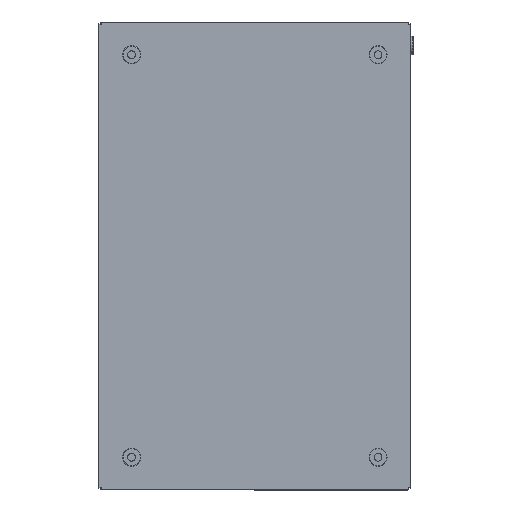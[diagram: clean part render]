
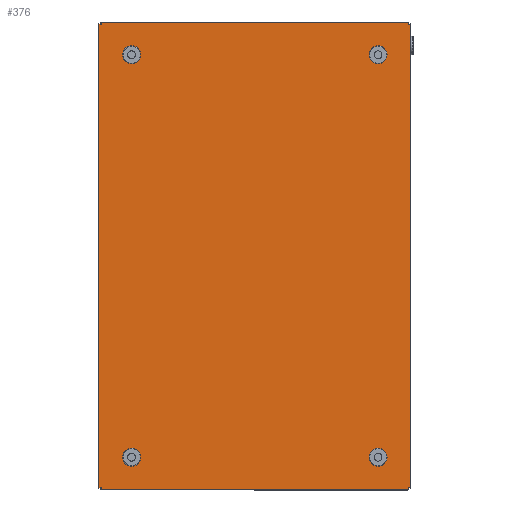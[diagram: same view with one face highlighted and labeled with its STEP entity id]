
A CAD part, front view. The second image highlights one B-rep face of the part: STEP entity #376.
In plain terms, the highlighted planar face has unit normal (0, -1, 0).
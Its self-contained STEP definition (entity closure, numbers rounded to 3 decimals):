
#376 = ADVANCED_FACE('',(#377,#397,#408,#428,#439),#561,.T.);
#377 = FACE_BOUND('',#378,.T.);
#378 = EDGE_LOOP('',(#379,#390));
#379 = ORIENTED_EDGE('',*,*,#380,.F.);
#380 = EDGE_CURVE('',#381,#383,#385,.T.);
#381 = VERTEX_POINT('',#382);
#382 = CARTESIAN_POINT('',(-79.,-1.2,-125.1));
#383 = VERTEX_POINT('',#384);
#384 = CARTESIAN_POINT('',(-79.,-1.2,-132.9));
#385 = CIRCLE('',#386,3.9);
#386 = AXIS2_PLACEMENT_3D('',#387,#388,#389);
#387 = CARTESIAN_POINT('',(-79.,-1.2,-129.));
#388 = DIRECTION('',(0.,-1.,0.));
#389 = DIRECTION('',(0.,0.,1.));
#390 = ORIENTED_EDGE('',*,*,#391,.F.);
#391 = EDGE_CURVE('',#383,#381,#392,.T.);
#392 = CIRCLE('',#393,3.9);
#393 = AXIS2_PLACEMENT_3D('',#394,#395,#396);
#394 = CARTESIAN_POINT('',(-79.,-1.2,-129.));
#395 = DIRECTION('',(0.,-1.,0.));
#396 = DIRECTION('',(0.,0.,1.));
#397 = FACE_BOUND('',#398,.T.);
#398 = EDGE_LOOP('',(#399));
#399 = ORIENTED_EDGE('',*,*,#400,.F.);
#400 = EDGE_CURVE('',#401,#401,#403,.T.);
#401 = VERTEX_POINT('',#402);
#402 = CARTESIAN_POINT('',(79.,-1.2,-132.9));
#403 = CIRCLE('',#404,3.9);
#404 = AXIS2_PLACEMENT_3D('',#405,#406,#407);
#405 = CARTESIAN_POINT('',(79.,-1.2,-129.));
#406 = DIRECTION('',(0.,-1.,0.));
#407 = DIRECTION('',(0.,0.,-1.));
#408 = FACE_BOUND('',#409,.T.);
#409 = EDGE_LOOP('',(#410,#421));
#410 = ORIENTED_EDGE('',*,*,#411,.F.);
#411 = EDGE_CURVE('',#412,#414,#416,.T.);
#412 = VERTEX_POINT('',#413);
#413 = CARTESIAN_POINT('',(79.,-1.2,132.9));
#414 = VERTEX_POINT('',#415);
#415 = CARTESIAN_POINT('',(79.,-1.2,125.1));
#416 = CIRCLE('',#417,3.9);
#417 = AXIS2_PLACEMENT_3D('',#418,#419,#420);
#418 = CARTESIAN_POINT('',(79.,-1.2,129.));
#419 = DIRECTION('',(0.,-1.,0.));
#420 = DIRECTION('',(0.,0.,1.));
#421 = ORIENTED_EDGE('',*,*,#422,.F.);
#422 = EDGE_CURVE('',#414,#412,#423,.T.);
#423 = CIRCLE('',#424,3.9);
#424 = AXIS2_PLACEMENT_3D('',#425,#426,#427);
#425 = CARTESIAN_POINT('',(79.,-1.2,129.));
#426 = DIRECTION('',(0.,-1.,0.));
#427 = DIRECTION('',(0.,0.,1.));
#428 = FACE_BOUND('',#429,.T.);
#429 = EDGE_LOOP('',(#430));
#430 = ORIENTED_EDGE('',*,*,#431,.F.);
#431 = EDGE_CURVE('',#432,#432,#434,.T.);
#432 = VERTEX_POINT('',#433);
#433 = CARTESIAN_POINT('',(-79.,-1.2,125.1));
#434 = CIRCLE('',#435,3.9);
#435 = AXIS2_PLACEMENT_3D('',#436,#437,#438);
#436 = CARTESIAN_POINT('',(-79.,-1.2,129.));
#437 = DIRECTION('',(0.,-1.,0.));
#438 = DIRECTION('',(0.,0.,-1.));
#439 = FACE_BOUND('',#440,.T.);
#440 = EDGE_LOOP('',(#441,#454,#465,#473,#484,#495,#503,#514,#525,#533,
    #544,#555));
#441 = ORIENTED_EDGE('',*,*,#442,.F.);
#442 = EDGE_CURVE('',#443,#445,#447,.T.);
#443 = VERTEX_POINT('',#444);
#444 = CARTESIAN_POINT('',(98.2,-1.2,148.2));
#445 = VERTEX_POINT('',#446);
#446 = CARTESIAN_POINT('',(100.,-1.2,148.574));
#447 = B_SPLINE_CURVE_WITH_KNOTS('',3,(#448,#449,#450,#451,#452,#453),
  .UNSPECIFIED.,.F.,.F.,(4,2,4),(0.004,0.005,
    0.006),.UNSPECIFIED.);
#448 = CARTESIAN_POINT('',(98.2,-1.2,148.2));
#449 = CARTESIAN_POINT('',(98.495,-1.2,148.287));
#450 = CARTESIAN_POINT('',(98.79,-1.2,148.371));
#451 = CARTESIAN_POINT('',(99.39,-1.2,148.498));
#452 = CARTESIAN_POINT('',(99.695,-1.2,148.543));
#453 = CARTESIAN_POINT('',(100.,-1.2,148.574));
#454 = ORIENTED_EDGE('',*,*,#455,.T.);
#455 = EDGE_CURVE('',#443,#456,#458,.T.);
#456 = VERTEX_POINT('',#457);
#457 = CARTESIAN_POINT('',(98.574,-1.2,150.));
#458 = B_SPLINE_CURVE_WITH_KNOTS('',3,(#459,#460,#461,#462,#463,#464),
  .UNSPECIFIED.,.F.,.F.,(4,2,4),(0.004,0.005,
    0.006),.UNSPECIFIED.);
#459 = CARTESIAN_POINT('',(98.2,-1.2,148.2));
#460 = CARTESIAN_POINT('',(98.287,-1.2,148.495));
#461 = CARTESIAN_POINT('',(98.371,-1.2,148.79));
#462 = CARTESIAN_POINT('',(98.498,-1.2,149.39));
#463 = CARTESIAN_POINT('',(98.543,-1.2,149.695));
#464 = CARTESIAN_POINT('',(98.574,-1.2,150.));
#465 = ORIENTED_EDGE('',*,*,#466,.T.);
#466 = EDGE_CURVE('',#456,#467,#469,.T.);
#467 = VERTEX_POINT('',#468);
#468 = CARTESIAN_POINT('',(-98.574,-1.2,150.));
#469 = LINE('',#470,#471);
#470 = CARTESIAN_POINT('',(1600.,-1.2,150.));
#471 = VECTOR('',#472,1.);
#472 = DIRECTION('',(-1.,0.,0.));
#473 = ORIENTED_EDGE('',*,*,#474,.F.);
#474 = EDGE_CURVE('',#475,#467,#477,.T.);
#475 = VERTEX_POINT('',#476);
#476 = CARTESIAN_POINT('',(-98.2,-1.2,148.2));
#477 = B_SPLINE_CURVE_WITH_KNOTS('',3,(#478,#479,#480,#481,#482,#483),
  .UNSPECIFIED.,.F.,.F.,(4,2,4),(0.004,0.005,
    0.006),.UNSPECIFIED.);
#478 = CARTESIAN_POINT('',(-98.2,-1.2,148.2));
#479 = CARTESIAN_POINT('',(-98.287,-1.2,148.495));
#480 = CARTESIAN_POINT('',(-98.371,-1.2,148.79));
#481 = CARTESIAN_POINT('',(-98.498,-1.2,149.39));
#482 = CARTESIAN_POINT('',(-98.543,-1.2,149.695));
#483 = CARTESIAN_POINT('',(-98.574,-1.2,150.));
#484 = ORIENTED_EDGE('',*,*,#485,.T.);
#485 = EDGE_CURVE('',#475,#486,#488,.T.);
#486 = VERTEX_POINT('',#487);
#487 = CARTESIAN_POINT('',(-100.,-1.2,148.574));
#488 = B_SPLINE_CURVE_WITH_KNOTS('',3,(#489,#490,#491,#492,#493,#494),
  .UNSPECIFIED.,.F.,.F.,(4,2,4),(0.004,0.005,
    0.006),.UNSPECIFIED.);
#489 = CARTESIAN_POINT('',(-98.2,-1.2,148.2));
#490 = CARTESIAN_POINT('',(-98.495,-1.2,148.287));
#491 = CARTESIAN_POINT('',(-98.79,-1.2,148.371));
#492 = CARTESIAN_POINT('',(-99.39,-1.2,148.498));
#493 = CARTESIAN_POINT('',(-99.695,-1.2,148.543));
#494 = CARTESIAN_POINT('',(-100.,-1.2,148.574));
#495 = ORIENTED_EDGE('',*,*,#496,.T.);
#496 = EDGE_CURVE('',#486,#497,#499,.T.);
#497 = VERTEX_POINT('',#498);
#498 = CARTESIAN_POINT('',(-100.,-1.2,-148.574));
#499 = LINE('',#500,#501);
#500 = CARTESIAN_POINT('',(-100.,-1.2,1650.));
#501 = VECTOR('',#502,1.);
#502 = DIRECTION('',(0.,0.,-1.));
#503 = ORIENTED_EDGE('',*,*,#504,.F.);
#504 = EDGE_CURVE('',#505,#497,#507,.T.);
#505 = VERTEX_POINT('',#506);
#506 = CARTESIAN_POINT('',(-98.2,-1.2,-148.2));
#507 = B_SPLINE_CURVE_WITH_KNOTS('',3,(#508,#509,#510,#511,#512,#513),
  .UNSPECIFIED.,.F.,.F.,(4,2,4),(0.004,0.005,
    0.006),.UNSPECIFIED.);
#508 = CARTESIAN_POINT('',(-98.2,-1.2,-148.2));
#509 = CARTESIAN_POINT('',(-98.495,-1.2,-148.287));
#510 = CARTESIAN_POINT('',(-98.79,-1.2,-148.371));
#511 = CARTESIAN_POINT('',(-99.39,-1.2,-148.498));
#512 = CARTESIAN_POINT('',(-99.695,-1.2,-148.543));
#513 = CARTESIAN_POINT('',(-100.,-1.2,-148.574));
#514 = ORIENTED_EDGE('',*,*,#515,.T.);
#515 = EDGE_CURVE('',#505,#516,#518,.T.);
#516 = VERTEX_POINT('',#517);
#517 = CARTESIAN_POINT('',(-98.574,-1.2,-150.));
#518 = B_SPLINE_CURVE_WITH_KNOTS('',3,(#519,#520,#521,#522,#523,#524),
  .UNSPECIFIED.,.F.,.F.,(4,2,4),(0.004,0.005,
    0.006),.UNSPECIFIED.);
#519 = CARTESIAN_POINT('',(-98.2,-1.2,-148.2));
#520 = CARTESIAN_POINT('',(-98.287,-1.2,-148.495));
#521 = CARTESIAN_POINT('',(-98.371,-1.2,-148.79));
#522 = CARTESIAN_POINT('',(-98.498,-1.2,-149.39));
#523 = CARTESIAN_POINT('',(-98.543,-1.2,-149.695));
#524 = CARTESIAN_POINT('',(-98.574,-1.2,-150.));
#525 = ORIENTED_EDGE('',*,*,#526,.T.);
#526 = EDGE_CURVE('',#516,#527,#529,.T.);
#527 = VERTEX_POINT('',#528);
#528 = CARTESIAN_POINT('',(98.574,-1.2,-150.));
#529 = LINE('',#530,#531);
#530 = CARTESIAN_POINT('',(-1600.,-1.2,-150.));
#531 = VECTOR('',#532,1.);
#532 = DIRECTION('',(1.,0.,0.));
#533 = ORIENTED_EDGE('',*,*,#534,.F.);
#534 = EDGE_CURVE('',#535,#527,#537,.T.);
#535 = VERTEX_POINT('',#536);
#536 = CARTESIAN_POINT('',(98.2,-1.2,-148.2));
#537 = B_SPLINE_CURVE_WITH_KNOTS('',3,(#538,#539,#540,#541,#542,#543),
  .UNSPECIFIED.,.F.,.F.,(4,2,4),(0.004,0.005,
    0.006),.UNSPECIFIED.);
#538 = CARTESIAN_POINT('',(98.2,-1.2,-148.2));
#539 = CARTESIAN_POINT('',(98.287,-1.2,-148.495));
#540 = CARTESIAN_POINT('',(98.371,-1.2,-148.79));
#541 = CARTESIAN_POINT('',(98.498,-1.2,-149.39));
#542 = CARTESIAN_POINT('',(98.543,-1.2,-149.695));
#543 = CARTESIAN_POINT('',(98.574,-1.2,-150.));
#544 = ORIENTED_EDGE('',*,*,#545,.T.);
#545 = EDGE_CURVE('',#535,#546,#548,.T.);
#546 = VERTEX_POINT('',#547);
#547 = CARTESIAN_POINT('',(100.,-1.2,-148.574));
#548 = B_SPLINE_CURVE_WITH_KNOTS('',3,(#549,#550,#551,#552,#553,#554),
  .UNSPECIFIED.,.F.,.F.,(4,2,4),(0.004,0.005,
    0.006),.UNSPECIFIED.);
#549 = CARTESIAN_POINT('',(98.2,-1.2,-148.2));
#550 = CARTESIAN_POINT('',(98.495,-1.2,-148.287));
#551 = CARTESIAN_POINT('',(98.79,-1.2,-148.371));
#552 = CARTESIAN_POINT('',(99.39,-1.2,-148.498));
#553 = CARTESIAN_POINT('',(99.695,-1.2,-148.543));
#554 = CARTESIAN_POINT('',(100.,-1.2,-148.574));
#555 = ORIENTED_EDGE('',*,*,#556,.T.);
#556 = EDGE_CURVE('',#546,#445,#557,.T.);
#557 = LINE('',#558,#559);
#558 = CARTESIAN_POINT('',(100.,-1.2,-1650.));
#559 = VECTOR('',#560,1.);
#560 = DIRECTION('',(0.,0.,1.));
#561 = PLANE('',#562);
#562 = AXIS2_PLACEMENT_3D('',#563,#564,#565);
#563 = CARTESIAN_POINT('',(0.,-1.2,0.));
#564 = DIRECTION('',(0.,-1.,0.));
#565 = DIRECTION('',(0.,-0.,-1.));
